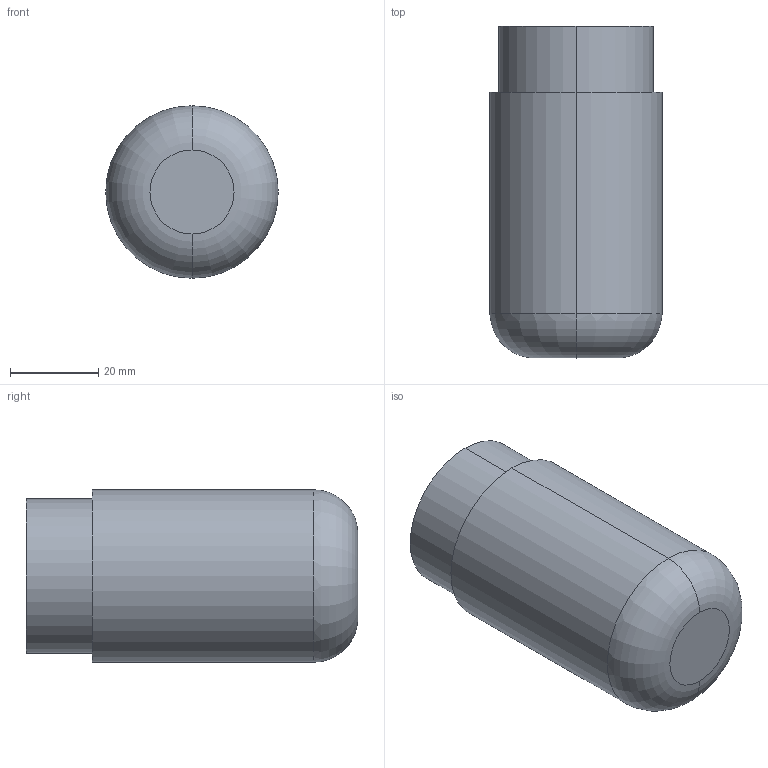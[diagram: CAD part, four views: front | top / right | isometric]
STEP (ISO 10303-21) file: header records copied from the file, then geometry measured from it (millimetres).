
FILE_DESCRIPTION (( 'STEP AP203' ), '1' );
FILE_NAME ('TPUnosecone1.STEP', '2021-02-08T05:04:47', ( '' ), ( '' ), 'SwSTEP 2.0', 'SolidWorks 2020', '' );
FILE_SCHEMA (( 'CONFIG_CONTROL_DESIGN' ));
Length unit declared in the file: millimetre
Products named in the file (1): TPUnosecone1
Bounding box: 39 x 75 x 39 mm (x, y, z)
Volume: 28395.8 mm3; surface area: 17335.2 mm2
Topology: 1 solids, 1 shells, 12 faces, 22 edges, 14 vertices
Faces by surface type: cylinder 6, plane 4, torus 2
Entity records: 383 total; most frequent: DIRECTION 64, CARTESIAN_POINT 49, ORIENTED_EDGE 44, AXIS2_PLACEMENT_3D 29, EDGE_CURVE 22, CIRCLE 16, EDGE_LOOP 14, VERTEX_POINT 14
